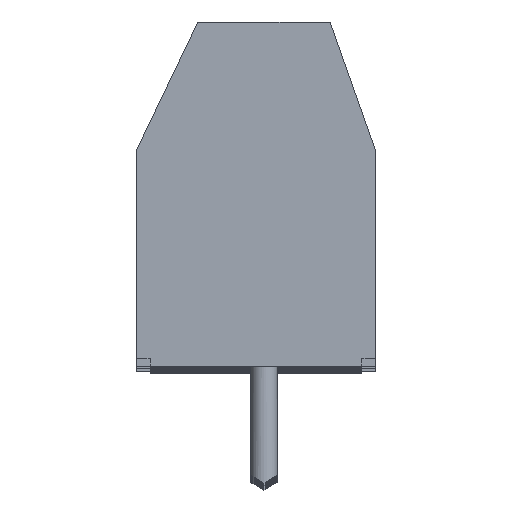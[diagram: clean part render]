
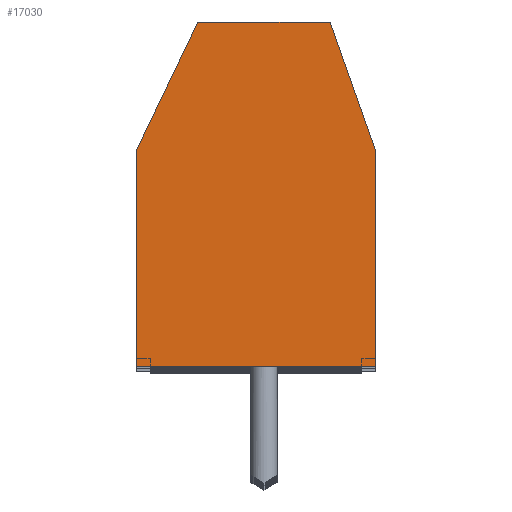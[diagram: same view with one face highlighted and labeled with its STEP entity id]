
A CAD part, top view. The second image highlights one B-rep face of the part: STEP entity #17030.
In plain terms, the highlighted planar face has unit normal (0, 0, 1).
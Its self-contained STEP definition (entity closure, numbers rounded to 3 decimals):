
#65 = LINE ( 'NONE', #21980, #3459 ) ;
#263 = VECTOR ( 'NONE', #16372, 1000. ) ;
#907 = ORIENTED_EDGE ( 'NONE', *, *, #31738, .T. ) ;
#3459 = VECTOR ( 'NONE', #25623, 1000. ) ;
#4154 = LINE ( 'NONE', #28904, #41603 ) ;
#4489 = ORIENTED_EDGE ( 'NONE', *, *, #26366, .T. ) ;
#4756 = CARTESIAN_POINT ( 'NONE',  ( 0., 8.2, 0. ) ) ;
#5923 = VERTEX_POINT ( 'NONE', #13990 ) ;
#8234 = VECTOR ( 'NONE', #30336, 1000. ) ;
#9040 = CARTESIAN_POINT ( 'NONE',  ( -9., 0.3, 0. ) ) ;
#9213 = EDGE_CURVE ( 'NONE', #45334, #22454, #11592, .T. ) ;
#9682 = VECTOR ( 'NONE', #14822, 1000. ) ;
#11592 = LINE ( 'NONE', #9040, #263 ) ;
#11680 = CARTESIAN_POINT ( 'NONE',  ( -6.7, 13., 0. ) ) ;
#11931 = EDGE_LOOP ( 'NONE', ( #33229, #907, #31831, #4489, #32298, #16767 ) ) ;
#13990 = CARTESIAN_POINT ( 'NONE',  ( 0., 8.2, 0. ) ) ;
#14822 = DIRECTION ( 'NONE',  ( 1., 0., 0. ) ) ;
#15784 = CARTESIAN_POINT ( 'NONE',  ( 0., 0., 0. ) ) ;
#16372 = DIRECTION ( 'NONE',  ( 0., 1., 0. ) ) ;
#16767 = ORIENTED_EDGE ( 'NONE', *, *, #26370, .T. ) ;
#16920 = VERTEX_POINT ( 'NONE', #35723 ) ;
#17030 = ADVANCED_FACE ( 'NONE', ( #40592 ), #18122, .T. ) ;
#17288 = VECTOR ( 'NONE', #45067, 1000. ) ;
#17741 = VERTEX_POINT ( 'NONE', #15784 ) ;
#18122 = PLANE ( 'NONE',  #25218 ) ;
#19328 = VERTEX_POINT ( 'NONE', #11680 ) ;
#19868 = CARTESIAN_POINT ( 'NONE',  ( -9., 0., 0. ) ) ;
#20778 = LINE ( 'NONE', #4756, #8234 ) ;
#21664 = LINE ( 'NONE', #21817, #9682 ) ;
#21817 = CARTESIAN_POINT ( 'NONE',  ( -9., 0., 0. ) ) ;
#21947 = CARTESIAN_POINT ( 'NONE',  ( -9., 8.2, 0. ) ) ;
#21980 = CARTESIAN_POINT ( 'NONE',  ( 0., 8.2, 0. ) ) ;
#22098 = DIRECTION ( 'NONE',  ( 0., 0., 1. ) ) ;
#22454 = VERTEX_POINT ( 'NONE', #32858 ) ;
#22970 = CARTESIAN_POINT ( 'NONE',  ( -9., 13., 0. ) ) ;
#25218 = AXIS2_PLACEMENT_3D ( 'NONE', #21947, #22098, #36050 ) ;
#25623 = DIRECTION ( 'NONE',  ( -0.334, 0.943, 0. ) ) ;
#26366 = EDGE_CURVE ( 'NONE', #45334, #17741, #21664, .T. ) ;
#26370 = EDGE_CURVE ( 'NONE', #5923, #16920, #65, .T. ) ;
#28287 = DIRECTION ( 'NONE',  ( -0.432, -0.902, 0. ) ) ;
#28904 = CARTESIAN_POINT ( 'NONE',  ( -6.7, 13., 0. ) ) ;
#30336 = DIRECTION ( 'NONE',  ( 0., 1., 0. ) ) ;
#31240 = EDGE_CURVE ( 'NONE', #16920, #19328, #43885, .T. ) ;
#31738 = EDGE_CURVE ( 'NONE', #19328, #22454, #4154, .T. ) ;
#31831 = ORIENTED_EDGE ( 'NONE', *, *, #9213, .F. ) ;
#32298 = ORIENTED_EDGE ( 'NONE', *, *, #36492, .T. ) ;
#32858 = CARTESIAN_POINT ( 'NONE',  ( -9., 8.2, 0. ) ) ;
#33229 = ORIENTED_EDGE ( 'NONE', *, *, #31240, .T. ) ;
#35723 = CARTESIAN_POINT ( 'NONE',  ( -1.7, 13., 0. ) ) ;
#36050 = DIRECTION ( 'NONE',  ( 1., 0., 0. ) ) ;
#36492 = EDGE_CURVE ( 'NONE', #17741, #5923, #20778, .T. ) ;
#40592 = FACE_OUTER_BOUND ( 'NONE', #11931, .T. ) ;
#41603 = VECTOR ( 'NONE', #28287, 1000. ) ;
#43885 = LINE ( 'NONE', #22970, #17288 ) ;
#45067 = DIRECTION ( 'NONE',  ( -1., 0., 0. ) ) ;
#45334 = VERTEX_POINT ( 'NONE', #19868 ) ;
